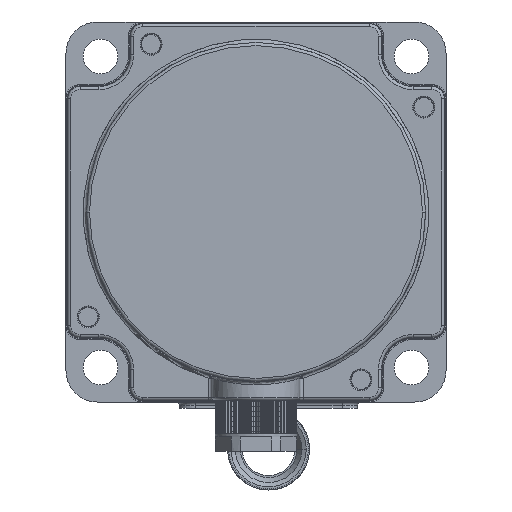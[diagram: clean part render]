
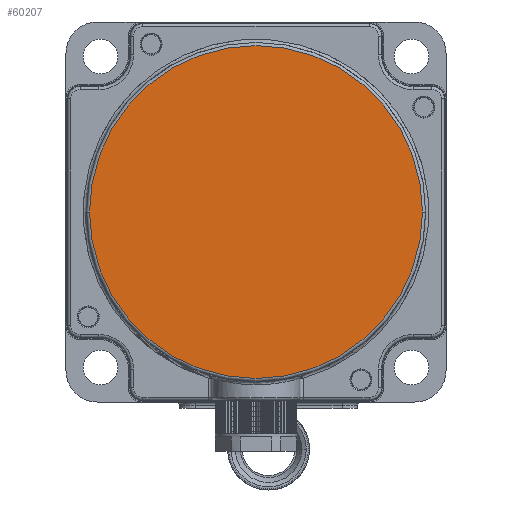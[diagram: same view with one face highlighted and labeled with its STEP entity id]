
A CAD part, front view. The second image highlights one B-rep face of the part: STEP entity #60207.
In plain terms, the highlighted planar face has unit normal (0, -1, 0).
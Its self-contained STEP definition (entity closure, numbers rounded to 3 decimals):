
#21911=CARTESIAN_POINT('',(30.25,-25.6,-30.25));
#21912=DIRECTION('',(0.,-1.,0.));
#21913=DIRECTION('',(1.,0.,0.));
#21914=AXIS2_PLACEMENT_3D('',#21911,#21912,#21913);
#21931=CARTESIAN_POINT('',(30.25,-25.6,-30.25));
#21932=DIRECTION('',(0.,-1.,0.));
#21933=DIRECTION('',(-1.,0.,0.));
#21934=AXIS2_PLACEMENT_3D('',#21931,#21932,#21933);
#24268=CARTESIAN_POINT('',(56.75,-25.6,-30.25));
#24269=VERTEX_POINT('',#24268);
#24270=CARTESIAN_POINT('',(3.75,-25.6,-30.25));
#24271=VERTEX_POINT('',#24270);
#60198=CARTESIAN_POINT('',(30.25,-25.6,-30.25));
#60199=DIRECTION('',(0.,1.,0.));
#60200=DIRECTION('',(0.,0.,-1.));
#60201=AXIS2_PLACEMENT_3D('',#60198,#60199,#60200);
#60202=PLANE('',#60201);
#60203=ORIENTED_EDGE('',*,*,#59771,.F.);
#60204=ORIENTED_EDGE('',*,*,#59755,.F.);
#60205=EDGE_LOOP('',(#60203,#60204));
#60206=FACE_OUTER_BOUND('',#60205,.F.);
#21915=CIRCLE('',#21914,26.5);
#21935=CIRCLE('',#21934,26.5);
#59755=EDGE_CURVE('',#24269,#24271,#21915,.T.);
#59771=EDGE_CURVE('',#24271,#24269,#21935,.T.);
#60207=ADVANCED_FACE('',(#60206),#60202,.F.);
